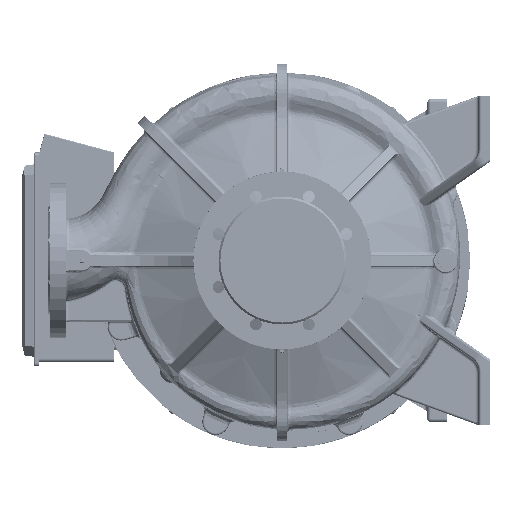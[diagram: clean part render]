
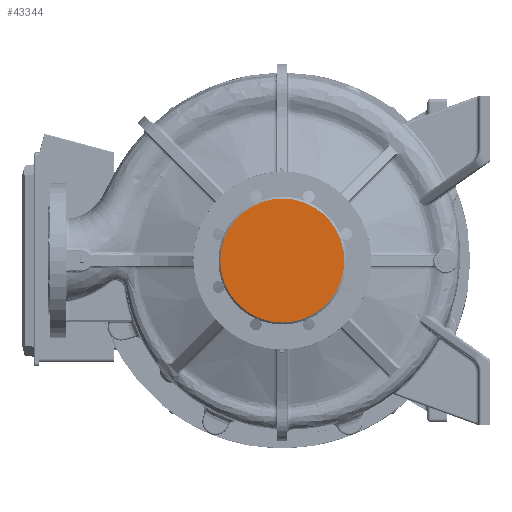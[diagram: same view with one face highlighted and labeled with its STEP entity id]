
A CAD part, left-side view. The second image highlights one B-rep face of the part: STEP entity #43344.
In plain terms, the highlighted planar face has unit normal (-1, 0, 0) as drawn and (0, 0, 1) by its records, which use the part's own axes.
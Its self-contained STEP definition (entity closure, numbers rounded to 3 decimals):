
#3568=CARTESIAN_POINT('',(0.,0.,140.));
#3569=DIRECTION('',(0.,0.,1.));
#3570=DIRECTION('',(0.,-1.,0.));
#3571=AXIS2_PLACEMENT_3D('',#3568,#3569,#3570);
#3800=CARTESIAN_POINT('',(0.,0.,140.));
#3801=DIRECTION('',(0.,0.,1.));
#3802=DIRECTION('',(0.,1.,0.));
#3803=AXIS2_PLACEMENT_3D('',#3800,#3801,#3802);
#37135=CARTESIAN_POINT('',(0.,-94.,140.));
#37137=VERTEX_POINT('',#37135);
#37139=CARTESIAN_POINT('',(0.,94.,140.));
#37141=VERTEX_POINT('',#37139);
#43335=CARTESIAN_POINT('',(0.,0.,140.));
#43336=DIRECTION('',(0.,0.,1.));
#43337=DIRECTION('',(-1.,0.,0.));
#43338=AXIS2_PLACEMENT_3D('',#43335,#43336,#43337);
#43339=PLANE('',#43338);
#43340=ORIENTED_EDGE('',*,*,#43142,.F.);
#43341=ORIENTED_EDGE('',*,*,#43217,.F.);
#43342=EDGE_LOOP('',(#43340,#43341));
#43343=FACE_OUTER_BOUND('',#43342,.F.);
#43344=ADVANCED_FACE('',(#43343),#43339,.T.);
#3572=CIRCLE('',#3571,94.);
#3804=CIRCLE('',#3803,94.);
#43142=EDGE_CURVE('',#37137,#37141,#3572,.T.);
#43217=EDGE_CURVE('',#37141,#37137,#3804,.T.);
